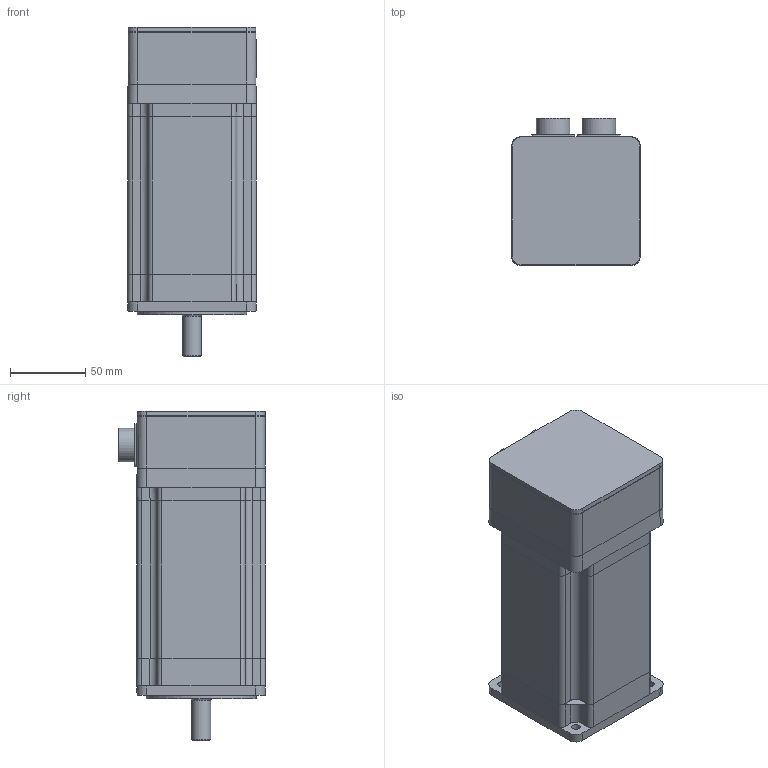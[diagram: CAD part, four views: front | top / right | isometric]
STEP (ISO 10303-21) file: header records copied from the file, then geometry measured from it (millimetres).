
FILE_DESCRIPTION((''),'2;1');
FILE_NAME('C:\CAD_work\Dummy_Modeling_Project_02-12-05\3D MODELS\BE344_MS_TQ.stp','2005-12-20T16:11:16',('jevans'),(''),'Autodesk Inventor 10','Autodesk Inventor 10','');
FILE_SCHEMA(('AUTOMOTIVE_DESIGN { 1 0 10303 214 1 1 1 1 }'));
Length unit declared in the file: inch
Products named in the file (1): BE34_MS_TQ
Bounding box: 85.66 x 97.77 x 219.33 mm (x, y, z)
Volume: 1277119.1 mm3; surface area: 94312.7 mm2
Topology: 4 solids, 4 shells, 304 faces, 724 edges, 448 vertices
Faces by surface type: plane 133, cylinder 122, bspline 31, sphere 12, cone 6
Full cylindrical faces by diameter (mm): 1.905 x26, 2.5 x2, 2.54 x4, 12.7 x1, 14.994 x1, 15 x1, 19.177 x1, 22.225 x1, 32 x1, 32.007 x1, 35.001 x1, 36.779 x1, 37.109 x1, 41.326 x3, 73.025 x1
Entity records: 8518 total; most frequent: CARTESIAN_POINT 1785, DIRECTION 1448, ORIENTED_EDGE 1242, EDGE_CURVE 621, AXIS2_PLACEMENT_3D 553, VERTEX_POINT 429, EDGE_LOOP 424, VECTOR 342
